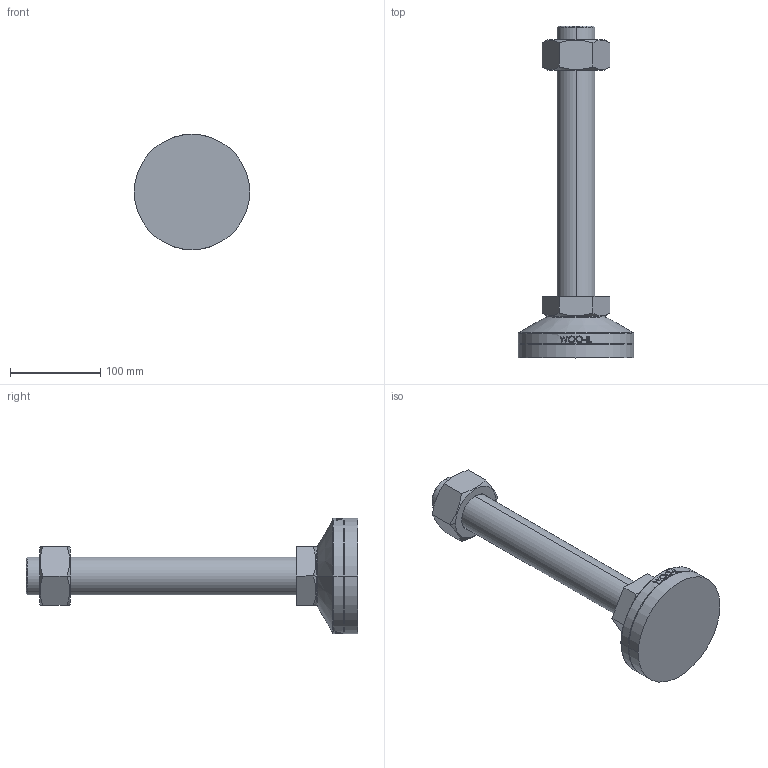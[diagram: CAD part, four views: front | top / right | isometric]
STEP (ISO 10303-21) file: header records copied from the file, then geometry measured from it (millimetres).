
FILE_DESCRIPTION (( 'STEP AP214' ), '1' );
FILE_NAME ('MFR128-M42-300.step', '2021-01-15T08:02:48', ( '' ), ( '' ), 'SwSTEP 2.0', 'SolidWorks 2019', '' );
FILE_SCHEMA (( 'AUTOMOTIVE_DESIGN' ));
Length unit declared in the file: millimetre
Products named in the file (2): MFR128-M42-300
Bounding box: 128 x 368 x 128 mm (x, y, z)
Volume: 1058413.1 mm3; surface area: 151413 mm2
Topology: 4 solids, 4 shells, 154 faces, 364 edges, 236 vertices
Faces by surface type: plane 82, bspline 32, cylinder 20, cone 14, torus 6
Entity records: 7300 total; most frequent: CARTESIAN_POINT 3918, ORIENTED_EDGE 728, DIRECTION 588, EDGE_CURVE 364, VERTEX_POINT 236, AXIS2_PLACEMENT_3D 206, VECTOR 176, LINE 176
